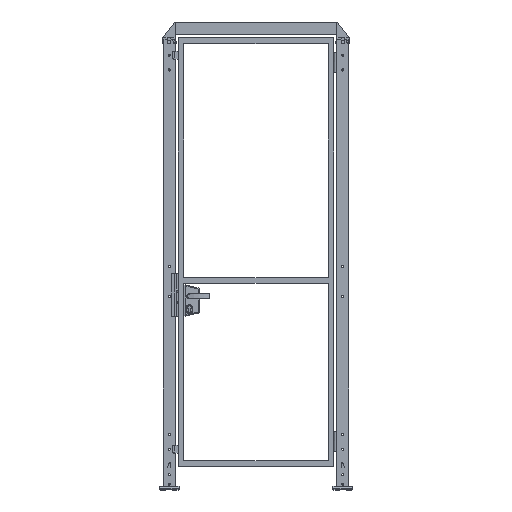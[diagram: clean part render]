
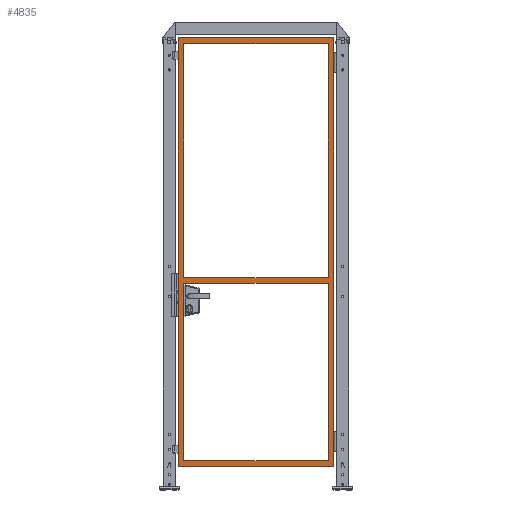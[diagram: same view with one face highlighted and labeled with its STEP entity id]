
A CAD part, top view. The second image highlights one B-rep face of the part: STEP entity #4835.
In plain terms, the highlighted planar face has unit normal (0, 0, 1).
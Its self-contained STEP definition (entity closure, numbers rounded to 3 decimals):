
#4835=ADVANCED_FACE('',(#9902,#9903,#9904),#9905,.F.);
#9902=FACE_BOUND('',#18248,.T.);
#9903=FACE_OUTER_BOUND('',#18249,.T.);
#9904=FACE_BOUND('',#18250,.T.);
#9905=PLANE('',#18251);
#18248=EDGE_LOOP('',(#32512,#32513,#32514,#32515));
#18249=EDGE_LOOP('',(#32516,#32517,#32518,#32519));
#18250=EDGE_LOOP('',(#32520,#32521,#32522,#32523));
#18251=AXIS2_PLACEMENT_3D('',#32524,#32525,#32526);
#32512=ORIENTED_EDGE('',*,*,#38409,.F.);
#32513=ORIENTED_EDGE('',*,*,#38415,.T.);
#32514=ORIENTED_EDGE('',*,*,#38437,.T.);
#32515=ORIENTED_EDGE('',*,*,#38442,.F.);
#32516=ORIENTED_EDGE('',*,*,#38453,.F.);
#32517=ORIENTED_EDGE('',*,*,#38447,.F.);
#32518=ORIENTED_EDGE('',*,*,#38417,.F.);
#32519=ORIENTED_EDGE('',*,*,#38451,.F.);
#32520=ORIENTED_EDGE('',*,*,#38439,.F.);
#32521=ORIENTED_EDGE('',*,*,#38434,.F.);
#32522=ORIENTED_EDGE('',*,*,#38445,.T.);
#32523=ORIENTED_EDGE('',*,*,#38454,.T.);
#32524=CARTESIAN_POINT('',(415.0,135.0,15.0));
#32525=DIRECTION('',(0.,0.0,-1.0));
#32526=DIRECTION('',(-1.0,0.0,0.));
#38409=EDGE_CURVE('',#47292,#47295,#47296,.T.);
#38415=EDGE_CURVE('',#47292,#47303,#47305,.T.);
#38417=EDGE_CURVE('',#47307,#47308,#47309,.T.);
#38434=EDGE_CURVE('',#47335,#47333,#47337,.T.);
#38437=EDGE_CURVE('',#47303,#47339,#47341,.T.);
#38439=EDGE_CURVE('',#47333,#47343,#47344,.T.);
#38442=EDGE_CURVE('',#47295,#47339,#47347,.T.);
#38445=EDGE_CURVE('',#47335,#47349,#47351,.T.);
#38447=EDGE_CURVE('',#47308,#47353,#47354,.T.);
#38451=EDGE_CURVE('',#47357,#47307,#47359,.T.);
#38453=EDGE_CURVE('',#47353,#47357,#47361,.T.);
#38454=EDGE_CURVE('',#47349,#47343,#47362,.T.);
#47292=VERTEX_POINT('',#61278);
#47295=VERTEX_POINT('',#61282);
#47296=LINE('',#61283,#61284);
#47303=VERTEX_POINT('',#61294);
#47305=LINE('',#61297,#61298);
#47307=VERTEX_POINT('',#61300);
#47308=VERTEX_POINT('',#61301);
#47309=LINE('',#61302,#61303);
#47333=VERTEX_POINT('',#61339);
#47335=VERTEX_POINT('',#61342);
#47337=LINE('',#61345,#61346);
#47339=VERTEX_POINT('',#61348);
#47341=LINE('',#61351,#61352);
#47343=VERTEX_POINT('',#61354);
#47344=LINE('',#61355,#61356);
#47347=LINE('',#61360,#61361);
#47349=VERTEX_POINT('',#61363);
#47351=LINE('',#61366,#61367);
#47353=VERTEX_POINT('',#61369);
#47354=LINE('',#61370,#61371);
#47357=VERTEX_POINT('',#61375);
#47359=LINE('',#61378,#61379);
#47361=LINE('',#61381,#61382);
#47362=LINE('',#61383,#61384);
#61278=CARTESIAN_POINT('',(785.0,2290.0,15.0));
#61282=CARTESIAN_POINT('',(45.,2290.0,15.0));
#61283=CARTESIAN_POINT('',(415.0,2290.0,15.0));
#61284=VECTOR('',#67665,1.0);
#61294=CARTESIAN_POINT('',(785.0,1090.0,15.0));
#61297=CARTESIAN_POINT('',(785.0,1220.0,15.0));
#61298=VECTOR('',#67670,1.0);
#61300=CARTESIAN_POINT('',(15.0,120.0,15.0));
#61301=CARTESIAN_POINT('',(15.,2320.0,15.0));
#61302=CARTESIAN_POINT('',(15.0,135.0,15.0));
#61303=VECTOR('',#67671,1.0);
#61339=CARTESIAN_POINT('',(45.,1060.0,15.0));
#61342=CARTESIAN_POINT('',(785.0,1060.0,15.0));
#61345=CARTESIAN_POINT('',(415.0,1060.0,15.0));
#61346=VECTOR('',#67686,1.0);
#61348=CARTESIAN_POINT('',(45.,1090.0,15.0));
#61351=CARTESIAN_POINT('',(415.0,1090.0,15.0));
#61352=VECTOR('',#67688,1.0);
#61354=CARTESIAN_POINT('',(45.0,150.0,15.0));
#61355=CARTESIAN_POINT('',(45.,1220.0,15.0));
#61356=VECTOR('',#67689,1.0);
#61360=CARTESIAN_POINT('',(45.,1220.0,15.0));
#61361=VECTOR('',#67691,1.0);
#61363=CARTESIAN_POINT('',(785.0,150.0,15.0));
#61366=CARTESIAN_POINT('',(785.0,1220.0,15.0));
#61367=VECTOR('',#67693,1.0);
#61369=CARTESIAN_POINT('',(815.0,2320.0,15.0));
#61370=CARTESIAN_POINT('',(30.,2320.0,15.0));
#61371=VECTOR('',#67694,1.0);
#61375=CARTESIAN_POINT('',(815.0,120.0,15.0));
#61378=CARTESIAN_POINT('',(415.0,120.0,15.0));
#61379=VECTOR('',#67697,1.0);
#61381=CARTESIAN_POINT('',(815.0,1220.0,15.0));
#61382=VECTOR('',#67698,1.0);
#61383=CARTESIAN_POINT('',(415.0,150.0,15.0));
#61384=VECTOR('',#67699,1.0);
#67665=DIRECTION('',(-1.0,0.0,0.));
#67670=DIRECTION('',(0.,-1.0,0.));
#67671=DIRECTION('',(0.0,1.0,0.0));
#67686=DIRECTION('',(-1.0,0.0,0.));
#67688=DIRECTION('',(-1.0,0.0,0.));
#67689=DIRECTION('',(0.,-1.0,0.));
#67691=DIRECTION('',(0.,-1.0,0.));
#67693=DIRECTION('',(0.,-1.0,0.));
#67694=DIRECTION('',(1.0,0.,0.));
#67697=DIRECTION('',(-1.0,0.0,0.));
#67698=DIRECTION('',(0.,-1.0,0.));
#67699=DIRECTION('',(-1.0,0.0,0.));
